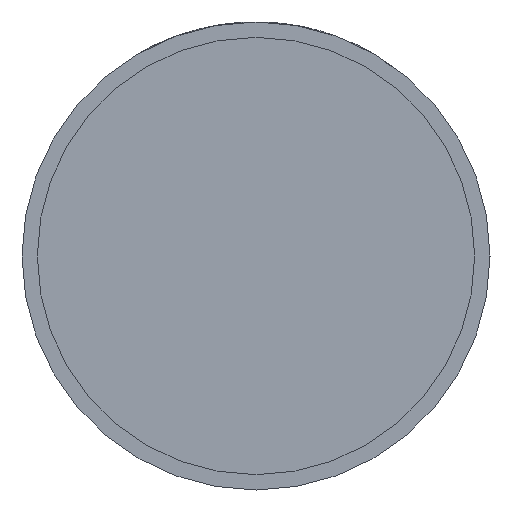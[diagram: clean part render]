
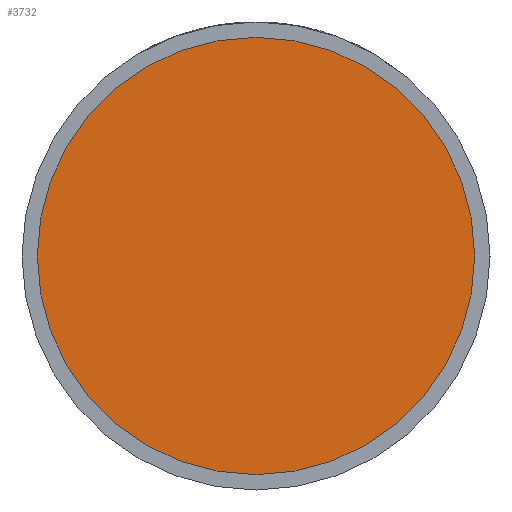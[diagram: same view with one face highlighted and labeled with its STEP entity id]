
A CAD part, front view. The second image highlights one B-rep face of the part: STEP entity #3732.
In plain terms, the highlighted planar face has unit normal (0, -1, 0).
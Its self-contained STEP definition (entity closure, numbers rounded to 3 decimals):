
#65 = DIRECTION ( 'NONE',  ( 0., -1., 0. ) ) ;
#373 = ORIENTED_EDGE ( 'NONE', *, *, #1717, .T. ) ;
#1089 = VERTEX_POINT ( 'NONE', #2834 ) ;
#1200 = CARTESIAN_POINT ( 'NONE',  ( 0., -17.5, 0. ) ) ;
#1436 = CIRCLE ( 'NONE', #4065, 28.5 ) ;
#1717 = EDGE_CURVE ( 'NONE', #1089, #4227, #2939, .T. ) ;
#1773 = DIRECTION ( 'NONE',  ( 1., 0., 0. ) ) ;
#1791 = DIRECTION ( 'NONE',  ( 1., 0., 0. ) ) ;
#2179 = DIRECTION ( 'NONE',  ( 0., -1., 0. ) ) ;
#2371 = EDGE_CURVE ( 'NONE', #4227, #1089, #1436, .T. ) ;
#2530 = FACE_OUTER_BOUND ( 'NONE', #2561, .T. ) ;
#2553 = CARTESIAN_POINT ( 'NONE',  ( 28.5, -17.5, 0. ) ) ;
#2561 = EDGE_LOOP ( 'NONE', ( #373, #4011 ) ) ;
#2612 = AXIS2_PLACEMENT_3D ( 'NONE', #2553, #3182, #3204 ) ;
#2834 = CARTESIAN_POINT ( 'NONE',  ( 28.5, -17.5, 0. ) ) ;
#2939 = CIRCLE ( 'NONE', #4098, 28.5 ) ;
#3073 = CARTESIAN_POINT ( 'NONE',  ( 0., -17.5, 0. ) ) ;
#3182 = DIRECTION ( 'NONE',  ( 0., -1., 0. ) ) ;
#3204 = DIRECTION ( 'NONE',  ( 1., 0., 0. ) ) ;
#3732 = ADVANCED_FACE ( 'NONE', ( #2530 ), #3850, .T. ) ;
#3850 = PLANE ( 'NONE',  #2612 ) ;
#4011 = ORIENTED_EDGE ( 'NONE', *, *, #2371, .T. ) ;
#4065 = AXIS2_PLACEMENT_3D ( 'NONE', #3073, #65, #1773 ) ;
#4091 = CARTESIAN_POINT ( 'NONE',  ( -28.5, -17.5, 0. ) ) ;
#4098 = AXIS2_PLACEMENT_3D ( 'NONE', #1200, #2179, #1791 ) ;
#4227 = VERTEX_POINT ( 'NONE', #4091 ) ;
